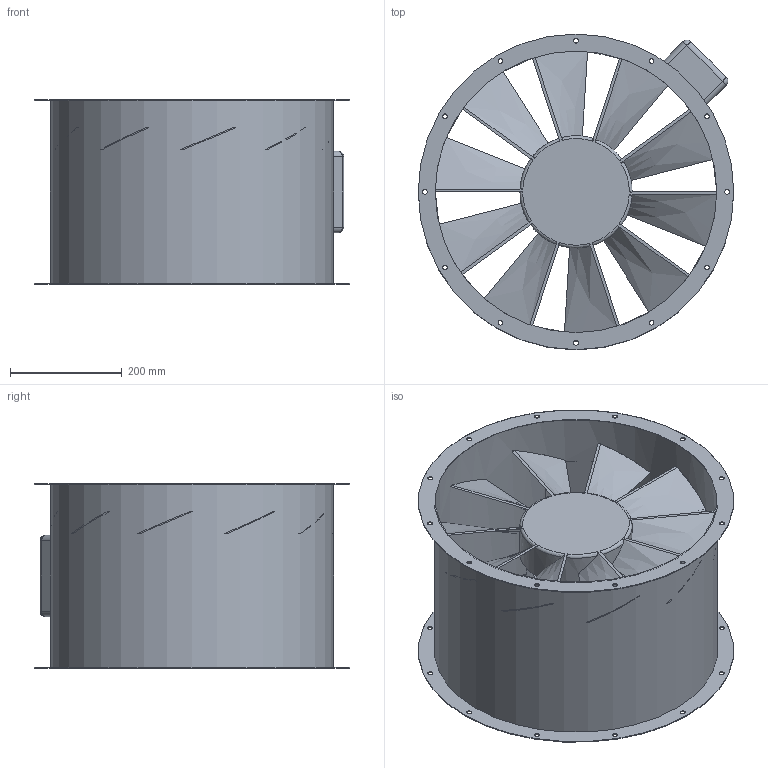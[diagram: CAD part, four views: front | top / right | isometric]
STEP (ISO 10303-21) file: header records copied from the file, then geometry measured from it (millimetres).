
FILE_DESCRIPTION(/* description */ (''),/* implementation_level */ '2;1');
FILE_NAME(/* name */ 'Z:\Output\HRFW_500-4-00211-021.stp',/* time_stamp */ '2017-09-25T10:28:05+02:00',/* author */ ('vijayparmar'),/* organization */ (''),/* preprocessor_version */ 'ST-DEVELOPER v16.5',/* originating_system */ 'Autodesk Inventor 2017',/* authorisation */ '');
FILE_SCHEMA (('AUTOMOTIVE_DESIGN { 1 0 10303 214 3 1 1 }'));
Length unit declared in the file: millimetre
Products named in the file (1): HRF
Bounding box: 565 x 565 x 330 mm (x, y, z)
Volume: 8981824.6 mm3; surface area: 1798731.1 mm2
Topology: 1 solids, 1 shells, 145 faces, 461 edges, 314 vertices
Faces by surface type: plane 59, cylinder 50, bspline 20, torus 11, sphere 4, cone 1
Full cylindrical faces by diameter (mm): 8.5 x24, 33 x1, 201 x1, 504 x1, 507 x1, 565 x2
Entity records: 5842 total; most frequent: CARTESIAN_POINT 1842, ORIENTED_EDGE 822, DIRECTION 748, EDGE_CURVE 411, AXIS2_PLACEMENT_3D 311, VERTEX_POINT 297, EDGE_LOOP 242, CIRCLE 149
